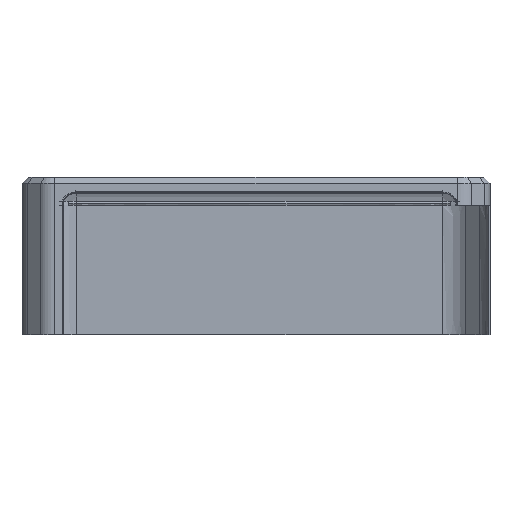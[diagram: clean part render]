
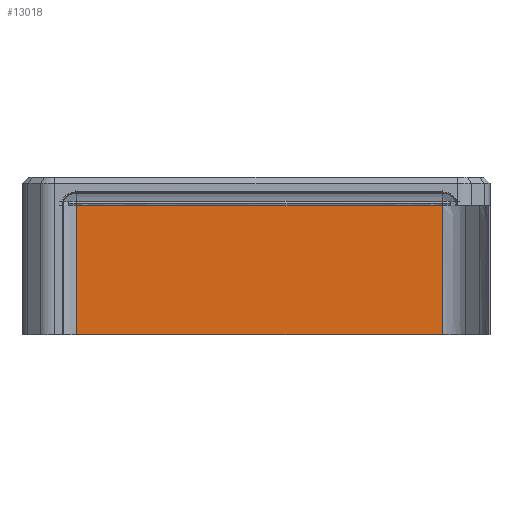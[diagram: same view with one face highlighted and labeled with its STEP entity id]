
A CAD part, front view. The second image highlights one B-rep face of the part: STEP entity #13018.
In plain terms, the highlighted planar face has unit normal (0, -1, 0).
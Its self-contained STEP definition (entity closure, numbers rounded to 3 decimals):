
#2421=DIRECTION('',(-1.,0.,0.));
#2422=VECTOR('',#2421,90.451);
#2423=CARTESIAN_POINT('',(45.225,129.202,-15.436));
#2424=LINE('',#2423,#2422);
#2434=CARTESIAN_POINT('',(45.225,129.202,-15.436));
#4727=DIRECTION('',(0.,0.,-1.));
#4728=VECTOR('',#4727,32.);
#4729=CARTESIAN_POINT('',(-45.225,129.202,16.564));
#4730=LINE('',#4729,#4728);
#4760=CARTESIAN_POINT('',(-45.225,129.202,16.564));
#4797=CARTESIAN_POINT('',(45.225,129.202,16.564));
#4807=DIRECTION('',(-1.,0.,0.));
#4808=VECTOR('',#4807,90.45);
#4809=CARTESIAN_POINT('',(45.225,129.202,16.564));
#4810=LINE('',#4809,#4808);
#4811=DIRECTION('',(0.,0.,-1.));
#4812=VECTOR('',#4811,32.);
#4813=CARTESIAN_POINT('',(45.225,129.202,16.564));
#4814=LINE('',#4813,#4812);
#6441=VERTEX_POINT('',#4760);
#6442=VERTEX_POINT('',#4797);
#6687=VERTEX_POINT('',#2434);
#6688=CARTESIAN_POINT('',(-45.226,129.202,
-15.436));
#6689=VERTEX_POINT('',#6688);
#13007=CARTESIAN_POINT('',(45.225,129.202,16.564));
#13008=DIRECTION('',(0.,-1.,0.));
#13009=DIRECTION('',(-1.,0.,0.));
#13010=AXIS2_PLACEMENT_3D('',#13007,#13008,#13009);
#13011=PLANE('',#13010);
#13012=ORIENTED_EDGE('',*,*,#13002,.F.);
#13013=ORIENTED_EDGE('',*,*,#12309,.T.);
#13014=ORIENTED_EDGE('',*,*,#9116,.T.);
#13015=ORIENTED_EDGE('',*,*,#12773,.F.);
#13016=EDGE_LOOP('',(#13012,#13013,#13014,#13015));
#13017=FACE_OUTER_BOUND('',#13016,.F.);
#9116=EDGE_CURVE('',#6687,#6689,#2424,.T.);
#12309=EDGE_CURVE('',#6442,#6687,#4814,.T.);
#12773=EDGE_CURVE('',#6441,#6689,#4730,.T.);
#13002=EDGE_CURVE('',#6442,#6441,#4810,.T.);
#13018=ADVANCED_FACE('',(#13017),#13011,.T.);
